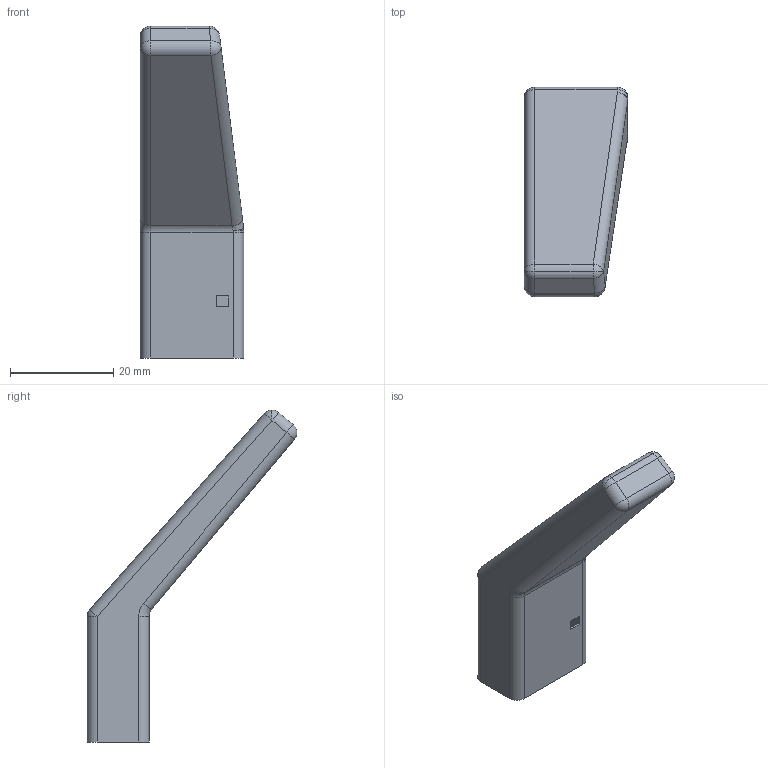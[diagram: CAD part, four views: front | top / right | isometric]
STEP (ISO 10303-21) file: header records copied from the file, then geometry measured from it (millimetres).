
FILE_DESCRIPTION (( 'STEP AP203' ), '1' );
FILE_NAME ('fuel door lever.STEP', '2020-06-21T19:38:58', ( '' ), ( '' ), 'SwSTEP 2.0', 'SolidWorks 2019', '' );
FILE_SCHEMA (( 'CONFIG_CONTROL_DESIGN' ));
Length unit declared in the file: millimetre
Products named in the file (1): fuel door lever
Bounding box: 20 x 40.61 x 64.22 mm (x, y, z)
Volume: 12077 mm3; surface area: 5210.8 mm2
Topology: 1 solids, 1 shells, 50 faces, 119 edges, 65 vertices
Faces by surface type: plane 20, cylinder 17, sphere 10, torus 2, bspline 1
Entity records: 1439 total; most frequent: DIRECTION 249, CARTESIAN_POINT 242, ORIENTED_EDGE 222, EDGE_CURVE 111, AXIS2_PLACEMENT_3D 90, VECTOR 69, LINE 69, VERTEX_POINT 63
